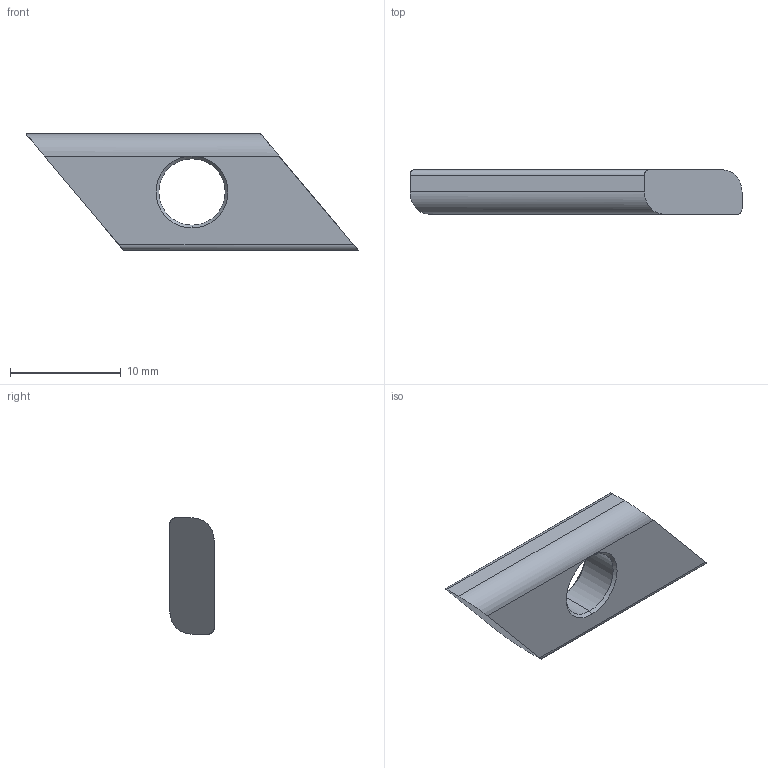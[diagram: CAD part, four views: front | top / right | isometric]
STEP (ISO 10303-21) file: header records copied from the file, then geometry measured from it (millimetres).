
FILE_DESCRIPTION (( 'STEP AP203' ), '1' );
FILE_NAME ('5196.STEP', '2017-04-14T02:46:24', ( '' ), ( '' ), 'SwSTEP 2.0', 'SolidWorks 2014', '' );
FILE_SCHEMA (( 'CONFIG_CONTROL_DESIGN' ));
Length unit declared in the file: millimetre
Products named in the file (1): 5196
Bounding box: 30 x 4 x 10.5 mm (x, y, z)
Volume: 737 mm3; surface area: 687.4 mm2
Topology: 1 solids, 1 shells, 16 faces, 40 edges, 24 vertices
Faces by surface type: cylinder 6, plane 6, cone 4
Entity records: 549 total; most frequent: CARTESIAN_POINT 105, ORIENTED_EDGE 80, DIRECTION 74, EDGE_CURVE 40, AXIS2_PLACEMENT_3D 25, LINE 24, VECTOR 24, VERTEX_POINT 24
